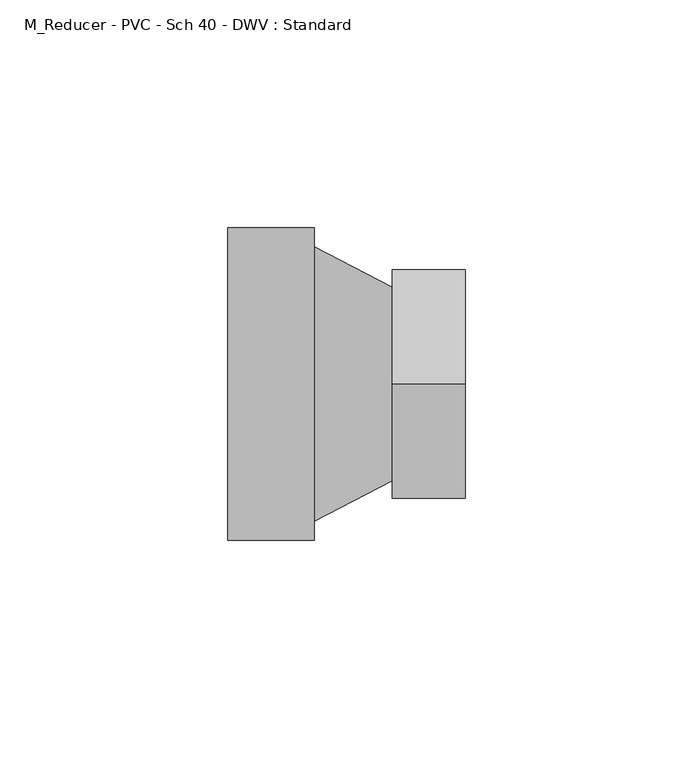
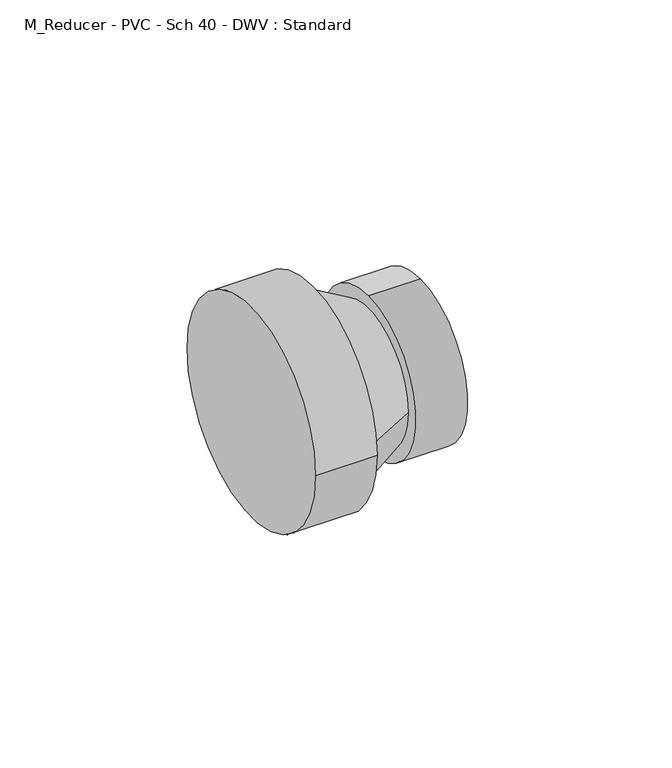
"""IFC4 building model written with IfcOpenShell, lengths in millimetres: pipe fitting geometry, M_Reducer - PVC - Sch 40 - DWV : Standard."""

from ifc_helpers import new_model, si_unit, frame, origin, place, context, project, spatial, polyline, circle_curve, source, transform, mapped, element, save
from ifc_brep_helpers import plane_surface, cylinder_surface, revolved_surface, advanced_brep


def m_reducer_pvc_sch_40_dwv_standard_7f1ca4eb(model_context):
    return source(origin(), model_context, "Body", "AdvancedBrep", [
        advanced_brep(
        [(0.0, -34.3154, 0.0), (0.0, 34.3154, 0.0), (19.05, -34.3154, 0.0), (19.05, 34.3154, 0.0), (19.05, 30.1625, 0.0), (19.05, -30.1625, 0.0), (36.1560938, 21.2040625, 0.0), (36.1560937, -21.2040625, 0.0), (36.1560938, 0.0, 25.2671094), (36.1560938, 0.0, -25.2671094), (52.1560938, 0.0, 25.2671094), (52.1560938, 0.0, -25.2671094)],
        [
            (0, 1, circle_curve(frame((0.0, 0.0, 0.0), z_axis=(-1.0, 0.0, 0.0), x_axis=(0.0, 1.0, 0.0)), 34.3154)),
            (1, 0, circle_curve(frame((0.0, 0.0, 0.0), z_axis=(-1.0, 0.0, 0.0), x_axis=(0.0, 1.0, 0.0)), 34.3154)),
            (2, 3, circle_curve(frame((19.05, 0.0, 0.0), z_axis=(1.0, 0.0, 0.0), x_axis=(0.0, 1.0, 0.0)), 34.3154)),
            (3, 2, circle_curve(frame((19.05, 0.0, 0.0), z_axis=(1.0, 0.0, 0.0), x_axis=(0.0, 1.0, 0.0)), 34.3154)),
            (4, 5, circle_curve(frame((19.05, 0.0, 0.0), z_axis=(-1.0, 0.0, 0.0), x_axis=(0.0, -1.0, 0.0)), 30.1625)),
            (5, 4, circle_curve(frame((19.05, 0.0, 0.0), z_axis=(-1.0, 0.0, 0.0), x_axis=(0.0, 1.0, 0.0)), 30.1625)),
            (0, 2),
            (3, 1),
            (4, 6),
            (6, 7, circle_curve(frame((36.1560938, 0.0, 0.0), z_axis=(-1.0, 0.0, 0.0), x_axis=(0.0, -1.0, 0.0)), 21.2040625)),
            (7, 5),
            (7, 6, circle_curve(frame((36.1560938, 0.0, 0.0), z_axis=(-1.0, 0.0, 0.0), x_axis=(0.0, 1.0, 0.0)), 21.2040625)),
            (8, 9, circle_curve(frame((36.1560938, 0.0, 0.0), z_axis=(-1.0, 0.0, 0.0), x_axis=(0.0, 0.0, -1.0)), 25.2671094)),
            (9, 8, circle_curve(frame((36.1560938, 0.0, 0.0), z_axis=(-1.0, 0.0, 0.0), x_axis=(0.0, 0.0, -1.0)), 25.2671094)),
            (10, 11, circle_curve(frame((52.1560938, 0.0, 0.0), z_axis=(1.0, 0.0, 0.0), x_axis=(0.0, 0.0, -1.0)), 25.2671094)),
            (11, 10, circle_curve(frame((52.1560938, 0.0, 0.0), z_axis=(1.0, 0.0, 0.0), x_axis=(0.0, 0.0, -1.0)), 25.2671094)),
            (8, 10),
            (11, 9),
        ],
        [
            plane_surface(frame((0.0, 0.0, 0.0), z_axis=(-1.0, 0.0, 0.0), x_axis=(0.0, 0.0, 1.0))),
            plane_surface(frame((19.05, 0.0, 0.0), z_axis=(1.0, 0.0, 0.0), x_axis=(0.0, 0.0, 1.0))),
            cylinder_surface(frame((0.0, 0.0, 0.0), z_axis=(-1.0, 0.0, 0.0), x_axis=(0.0, 1.0, 0.0)), 34.3154),
            revolved_surface(polyline([(36.1560938, 21.204062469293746, 0.0), (19.049999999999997, 30.1625, 0.0)]), (76.6451501, 0.0, 0.0), (-1.0, 0.0, 0.0)),
            plane_surface(frame((36.1560938, 0.0, 0.0), z_axis=(-1.0, 0.0, 0.0), x_axis=(0.0, 1.0, 0.0))),
            plane_surface(frame((52.1560938, 0.0, 0.0), z_axis=(1.0, 0.0, 0.0), x_axis=(0.0, 1.0, 0.0))),
            cylinder_surface(frame((36.1560938, 0.0, 0.0), z_axis=(-1.0, 0.0, 0.0), x_axis=(0.0, 0.0, -1.0)), 25.2671094),
        ],
        [
            (0, [[1, 2]]),
            (1, [[3, 4], [5, 6]]),
            (2, [[-1, 7, -4, 8]]),
            (2, [[-2, -8, -3, -7]]),
            (3, [[9, 10, 11, -5]]),
            (3, [[-9, -6, -11, 12]]),
            (4, [[13, 14], [-10, -12]]),
            (5, [[15, 16]]),
            (6, [[-13, 17, -16, 18]]),
            (6, [[-14, -18, -15, -17]]),
        ],
    ),
    ])


if __name__ == "__main__":
    model = new_model("IFC4")
    model_context = context("Model", 3, world=origin())
    ifc_project = project(units=[si_unit("LENGTHUNIT", "METRE", prefix="MILLI")], contexts=[model_context])
    site = spatial("IfcSite", under=ifc_project)
    building = spatial("IfcBuilding", under=site)
    placement = place(None, origin())
    m_reducer_pvc_sch_40_dwv_standard_shape = m_reducer_pvc_sch_40_dwv_standard_7f1ca4eb(model_context)
    element("IfcPipeFitting", 1, ObjectType="M_Reducer - PVC - Sch 40 - DWV : Standard", at=placement, inside=building, context=model_context, shape_type="MappedRepresentation", body=[
        mapped(m_reducer_pvc_sch_40_dwv_standard_shape, transform((0.0, 0.0, 0.0), x_axis=(1.0, 0.0, 0.0), y_axis=(0.0, 1.0, 0.0), z_axis=(0.0, 0.0, 1.0))),
    ])
    save(model, "model.ifc")
